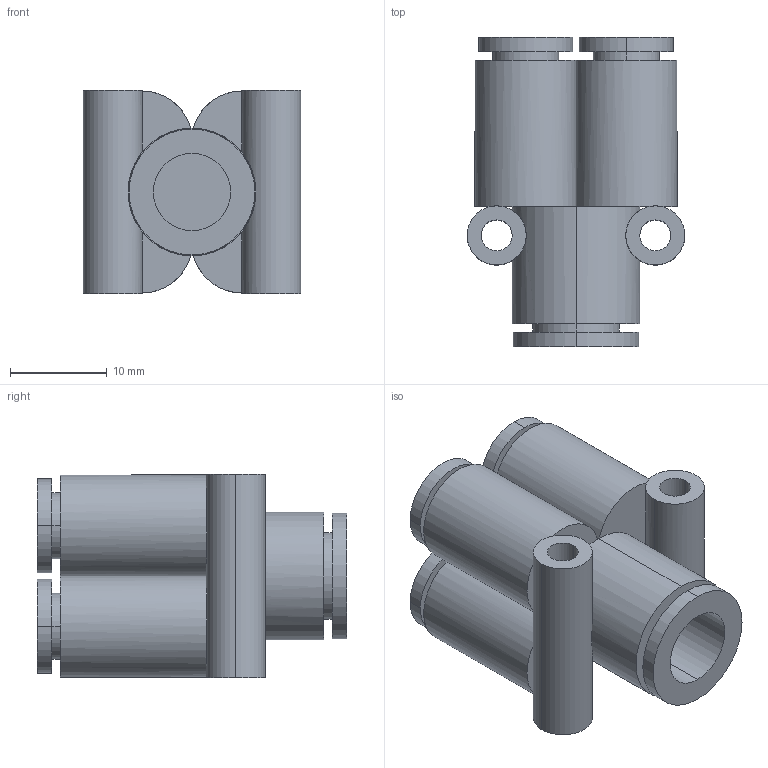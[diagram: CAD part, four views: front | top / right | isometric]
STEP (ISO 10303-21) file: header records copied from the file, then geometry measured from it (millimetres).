
FILE_DESCRIPTION (( 'STEP AP203' ), '1' );
FILE_NAME ('FUD06-08.STEP', '2020-05-12T15:19:20', ( '' ), ( '' ), 'SwSTEP 2.0', 'SolidWorks 2019', '' );
FILE_SCHEMA (( 'CONFIG_CONTROL_DESIGN' ));
Length unit declared in the file: millimetre
Products named in the file (1): FUD06-08
Bounding box: 22.5 x 32 x 21 mm (x, y, z)
Volume: 6326.3 mm3; surface area: 6281.1 mm2
Topology: 1 solids, 1 shells, 83 faces, 193 edges, 126 vertices
Faces by surface type: cylinder 49, plane 34
Entity records: 2851 total; most frequent: CARTESIAN_POINT 752, DIRECTION 471, ORIENTED_EDGE 386, AXIS2_PLACEMENT_3D 206, EDGE_CURVE 193, VERTEX_POINT 126, CIRCLE 122, EDGE_LOOP 109
